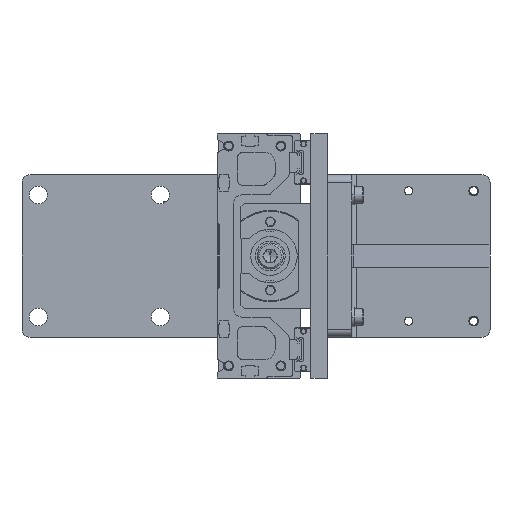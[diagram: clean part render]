
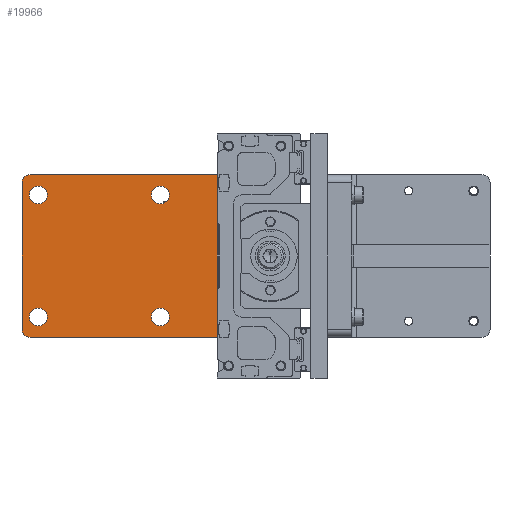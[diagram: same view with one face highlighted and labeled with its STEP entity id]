
A CAD part, front view. The second image highlights one B-rep face of the part: STEP entity #19966.
In plain terms, the highlighted planar face has unit normal (0, -1, 0).
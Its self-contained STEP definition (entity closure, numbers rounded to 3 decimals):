
#109 = CARTESIAN_POINT ( 'NONE',  ( -110., -85.5, 37.5 ) ) ;
#634 = EDGE_CURVE ( 'NONE', #40219, #15832, #5788, .T. ) ;
#764 = AXIS2_PLACEMENT_3D ( 'NONE', #2452, #29826, #12291 ) ;
#1138 = DIRECTION ( 'NONE',  ( 0., -1., 0. ) ) ;
#1161 = ORIENTED_EDGE ( 'NONE', *, *, #634, .F. ) ;
#1179 = CIRCLE ( 'NONE', #11357, 5.5 ) ;
#1499 = CARTESIAN_POINT ( 'NONE',  ( 0., -85.5, 50. ) ) ;
#1566 = AXIS2_PLACEMENT_3D ( 'NONE', #22004, #1138, #38970 ) ;
#2452 = CARTESIAN_POINT ( 'NONE',  ( -110., -85.5, 37.5 ) ) ;
#2499 = CARTESIAN_POINT ( 'NONE',  ( -35., -85.5, -37.5 ) ) ;
#2574 = VERTEX_POINT ( 'NONE', #43665 ) ;
#2648 = ORIENTED_EDGE ( 'NONE', *, *, #23476, .F. ) ;
#2811 = VERTEX_POINT ( 'NONE', #18540 ) ;
#3018 = VERTEX_POINT ( 'NONE', #26557 ) ;
#3047 = ORIENTED_EDGE ( 'NONE', *, *, #17926, .F. ) ;
#3292 = VERTEX_POINT ( 'NONE', #39525 ) ;
#3341 = VERTEX_POINT ( 'NONE', #25738 ) ;
#3795 = EDGE_CURVE ( 'NONE', #2574, #3292, #20681, .T. ) ;
#4100 = EDGE_CURVE ( 'NONE', #19386, #3341, #8837, .T. ) ;
#4414 = VERTEX_POINT ( 'NONE', #38909 ) ;
#4765 = CIRCLE ( 'NONE', #40866, 5.5 ) ;
#5512 = VECTOR ( 'NONE', #11783, 1000. ) ;
#5788 = CIRCLE ( 'NONE', #25712, 5.5 ) ;
#5882 = EDGE_CURVE ( 'NONE', #2811, #31667, #29728, .T. ) ;
#6482 = EDGE_CURVE ( 'NONE', #26123, #17204, #17210, .T. ) ;
#6576 = EDGE_LOOP ( 'NONE', ( #36490, #37051 ) ) ;
#6837 = CARTESIAN_POINT ( 'NONE',  ( -35., -85.5, 43. ) ) ;
#6882 = DIRECTION ( 'NONE',  ( 0., 0., 1. ) ) ;
#7840 = DIRECTION ( 'NONE',  ( 0., 0., 1. ) ) ;
#8132 = DIRECTION ( 'NONE',  ( 0., 1., 0. ) ) ;
#8737 = EDGE_CURVE ( 'NONE', #3292, #38135, #22428, .T. ) ;
#8771 = ORIENTED_EDGE ( 'NONE', *, *, #17585, .F. ) ;
#8837 = CIRCLE ( 'NONE', #764, 5.5 ) ;
#8918 = PLANE ( 'NONE',  #16414 ) ;
#9194 = LINE ( 'NONE', #31632, #11712 ) ;
#9416 = EDGE_CURVE ( 'NONE', #2811, #3018, #9194, .T. ) ;
#9434 = VERTEX_POINT ( 'NONE', #39285 ) ;
#9975 = CARTESIAN_POINT ( 'NONE',  ( -35., -85.5, -37.5 ) ) ;
#10051 = AXIS2_PLACEMENT_3D ( 'NONE', #25698, #32154, #32296 ) ;
#10112 = DIRECTION ( 'NONE',  ( 0., -1., 0. ) ) ;
#11164 = DIRECTION ( 'NONE',  ( 0., 0., 1. ) ) ;
#11357 = AXIS2_PLACEMENT_3D ( 'NONE', #25133, #21966, #42671 ) ;
#11409 = DIRECTION ( 'NONE',  ( 0., -1., 0. ) ) ;
#11580 = FACE_BOUND ( 'NONE', #35301, .T. ) ;
#11712 = VECTOR ( 'NONE', #23922, 1000. ) ;
#11783 = DIRECTION ( 'NONE',  ( 0., 0., 1. ) ) ;
#12291 = DIRECTION ( 'NONE',  ( 0., 0., 1. ) ) ;
#13712 = DIRECTION ( 'NONE',  ( 0., 0., 1. ) ) ;
#15471 = DIRECTION ( 'NONE',  ( 0., 1., 0. ) ) ;
#15832 = VERTEX_POINT ( 'NONE', #6837 ) ;
#15885 = FACE_BOUND ( 'NONE', #37671, .T. ) ;
#15967 = ORIENTED_EDGE ( 'NONE', *, *, #5882, .T. ) ;
#16328 = CARTESIAN_POINT ( 'NONE',  ( -35., -85.5, 32. ) ) ;
#16414 = AXIS2_PLACEMENT_3D ( 'NONE', #19017, #8132, #42282 ) ;
#17204 = VERTEX_POINT ( 'NONE', #33323 ) ;
#17210 = CIRCLE ( 'NONE', #19194, 5.5 ) ;
#17365 = CARTESIAN_POINT ( 'NONE',  ( -120., -85.5, 50. ) ) ;
#17585 = EDGE_CURVE ( 'NONE', #3018, #2574, #42930, .T. ) ;
#17926 = EDGE_CURVE ( 'NONE', #3341, #19386, #4765, .T. ) ;
#18540 = CARTESIAN_POINT ( 'NONE',  ( 0., -85.5, -50. ) ) ;
#18559 = FACE_BOUND ( 'NONE', #6576, .T. ) ;
#18942 = DIRECTION ( 'NONE',  ( 0., 0., 1. ) ) ;
#19017 = CARTESIAN_POINT ( 'NONE',  ( -120., -85.5, 50. ) ) ;
#19194 = AXIS2_PLACEMENT_3D ( 'NONE', #21675, #11409, #7840 ) ;
#19386 = VERTEX_POINT ( 'NONE', #19629 ) ;
#19629 = CARTESIAN_POINT ( 'NONE',  ( -110., -85.5, 32. ) ) ;
#19836 = ORIENTED_EDGE ( 'NONE', *, *, #9416, .F. ) ;
#19966 = ADVANCED_FACE ( 'NONE', ( #26175, #28866, #15885, #18559, #11580 ), #8918, .F. ) ;
#20681 = LINE ( 'NONE', #17365, #32525 ) ;
#21268 = DIRECTION ( 'NONE',  ( 0., -1., 0. ) ) ;
#21675 = CARTESIAN_POINT ( 'NONE',  ( -110., -85.5, -37.5 ) ) ;
#21966 = DIRECTION ( 'NONE',  ( 0., -1., 0. ) ) ;
#22004 = CARTESIAN_POINT ( 'NONE',  ( -110., -85.5, -37.5 ) ) ;
#22428 = CIRCLE ( 'NONE', #23654, 5. ) ;
#23476 = EDGE_CURVE ( 'NONE', #15832, #40219, #1179, .T. ) ;
#23654 = AXIS2_PLACEMENT_3D ( 'NONE', #36103, #15471, #18942 ) ;
#23922 = DIRECTION ( 'NONE',  ( -1., 0., 0. ) ) ;
#24390 = CIRCLE ( 'NONE', #27686, 5.5 ) ;
#24503 = CARTESIAN_POINT ( 'NONE',  ( 0., -85.5, 50. ) ) ;
#25133 = CARTESIAN_POINT ( 'NONE',  ( -35., -85.5, 37.5 ) ) ;
#25697 = VECTOR ( 'NONE', #26006, 1000. ) ;
#25698 = CARTESIAN_POINT ( 'NONE',  ( -115., -85.5, -45. ) ) ;
#25712 = AXIS2_PLACEMENT_3D ( 'NONE', #28378, #38269, #11164 ) ;
#25738 = CARTESIAN_POINT ( 'NONE',  ( -110., -85.5, 43. ) ) ;
#25857 = ORIENTED_EDGE ( 'NONE', *, *, #27443, .F. ) ;
#26006 = DIRECTION ( 'NONE',  ( 1., 0., 0. ) ) ;
#26123 = VERTEX_POINT ( 'NONE', #38500 ) ;
#26175 = FACE_OUTER_BOUND ( 'NONE', #40830, .T. ) ;
#26557 = CARTESIAN_POINT ( 'NONE',  ( -115., -85.5, -50. ) ) ;
#26689 = DIRECTION ( 'NONE',  ( 0., -1., 0. ) ) ;
#26903 = CIRCLE ( 'NONE', #1566, 5.5 ) ;
#27163 = CARTESIAN_POINT ( 'NONE',  ( -115., -85.5, 50. ) ) ;
#27443 = EDGE_CURVE ( 'NONE', #4414, #9434, #42704, .T. ) ;
#27686 = AXIS2_PLACEMENT_3D ( 'NONE', #9975, #10112, #30915 ) ;
#27957 = AXIS2_PLACEMENT_3D ( 'NONE', #2499, #26689, #30162 ) ;
#28378 = CARTESIAN_POINT ( 'NONE',  ( -35., -85.5, 37.5 ) ) ;
#28508 = EDGE_CURVE ( 'NONE', #9434, #4414, #24390, .T. ) ;
#28866 = FACE_BOUND ( 'NONE', #41899, .T. ) ;
#29728 = LINE ( 'NONE', #1499, #5512 ) ;
#29826 = DIRECTION ( 'NONE',  ( 0., -1., 0. ) ) ;
#30162 = DIRECTION ( 'NONE',  ( 0., 0., 1. ) ) ;
#30852 = EDGE_CURVE ( 'NONE', #17204, #26123, #26903, .T. ) ;
#30915 = DIRECTION ( 'NONE',  ( 0., 0., 1. ) ) ;
#31632 = CARTESIAN_POINT ( 'NONE',  ( -120., -85.5, -50. ) ) ;
#31667 = VERTEX_POINT ( 'NONE', #24503 ) ;
#32154 = DIRECTION ( 'NONE',  ( 0., 1., 0. ) ) ;
#32296 = DIRECTION ( 'NONE',  ( 0., 0., 1. ) ) ;
#32525 = VECTOR ( 'NONE', #6882, 1000. ) ;
#33323 = CARTESIAN_POINT ( 'NONE',  ( -110., -85.5, -32. ) ) ;
#34222 = ORIENTED_EDGE ( 'NONE', *, *, #3795, .F. ) ;
#35301 = EDGE_LOOP ( 'NONE', ( #3047, #43920 ) ) ;
#35332 = ORIENTED_EDGE ( 'NONE', *, *, #28508, .F. ) ;
#36103 = CARTESIAN_POINT ( 'NONE',  ( -115., -85.5, 45. ) ) ;
#36451 = EDGE_CURVE ( 'NONE', #38135, #31667, #38031, .T. ) ;
#36490 = ORIENTED_EDGE ( 'NONE', *, *, #30852, .F. ) ;
#37051 = ORIENTED_EDGE ( 'NONE', *, *, #6482, .F. ) ;
#37653 = ORIENTED_EDGE ( 'NONE', *, *, #8737, .F. ) ;
#37671 = EDGE_LOOP ( 'NONE', ( #2648, #1161 ) ) ;
#38031 = LINE ( 'NONE', #39651, #25697 ) ;
#38135 = VERTEX_POINT ( 'NONE', #27163 ) ;
#38269 = DIRECTION ( 'NONE',  ( 0., -1., 0. ) ) ;
#38500 = CARTESIAN_POINT ( 'NONE',  ( -110., -85.5, -43. ) ) ;
#38909 = CARTESIAN_POINT ( 'NONE',  ( -35., -85.5, -43. ) ) ;
#38970 = DIRECTION ( 'NONE',  ( 0., 0., 1. ) ) ;
#39285 = CARTESIAN_POINT ( 'NONE',  ( -35., -85.5, -32. ) ) ;
#39525 = CARTESIAN_POINT ( 'NONE',  ( -120., -85.5, 45. ) ) ;
#39651 = CARTESIAN_POINT ( 'NONE',  ( 0., -85.5, 50. ) ) ;
#40219 = VERTEX_POINT ( 'NONE', #16328 ) ;
#40830 = EDGE_LOOP ( 'NONE', ( #37653, #34222, #8771, #19836, #15967, #41775 ) ) ;
#40866 = AXIS2_PLACEMENT_3D ( 'NONE', #109, #21268, #13712 ) ;
#41775 = ORIENTED_EDGE ( 'NONE', *, *, #36451, .F. ) ;
#41899 = EDGE_LOOP ( 'NONE', ( #35332, #25857 ) ) ;
#42282 = DIRECTION ( 'NONE',  ( 0., 0., 1. ) ) ;
#42671 = DIRECTION ( 'NONE',  ( 0., 0., 1. ) ) ;
#42704 = CIRCLE ( 'NONE', #27957, 5.5 ) ;
#42930 = CIRCLE ( 'NONE', #10051, 5. ) ;
#43665 = CARTESIAN_POINT ( 'NONE',  ( -120., -85.5, -45. ) ) ;
#43920 = ORIENTED_EDGE ( 'NONE', *, *, #4100, .F. ) ;
